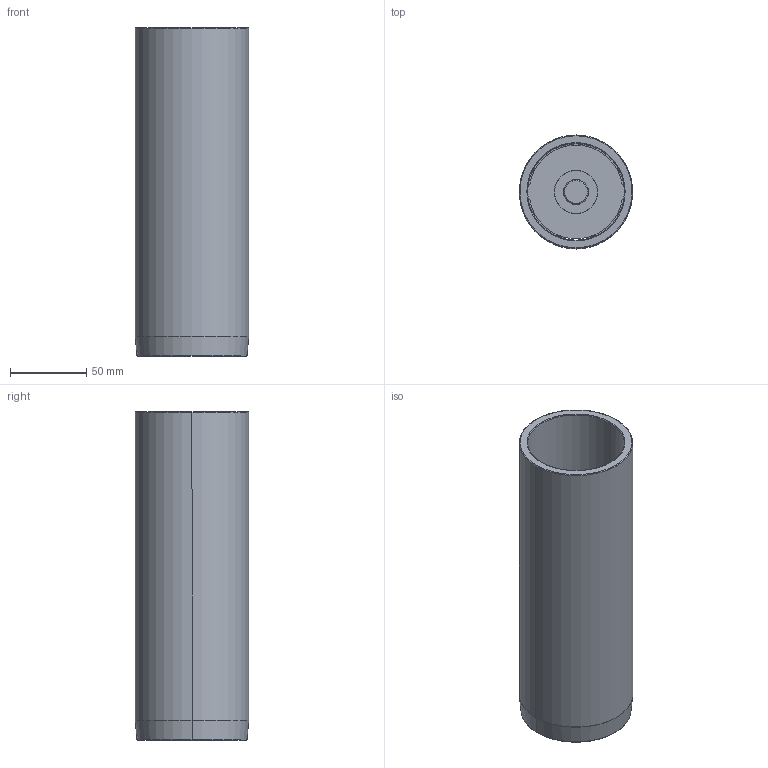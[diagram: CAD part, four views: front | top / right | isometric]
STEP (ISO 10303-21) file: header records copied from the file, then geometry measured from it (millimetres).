
FILE_DESCRIPTION((''),'2;1');
FILE_NAME('C12_063_215.stp','2009-01-29T09:35:48',(''),(''),'Mechanical Desktop 2009','Mechanical Desktop 2009',', , ');
FILE_SCHEMA(('CONFIG_CONTROL_DESIGN'));
Length unit declared in the file: millimetre
Products named in the file (2): Product; blmdl1
Assembly tree (1 placements, depth 2):
  Product
    blmdl1
Bounding box: 74.25 x 74.25 x 215 mm (x, y, z)
Volume: 264762.8 mm3; surface area: 109669.7 mm2
Topology: 5 solids, 5 shells, 79 faces, 200 edges, 134 vertices
Faces by surface type: cylinder 34, plane 29, torus 10, cone 6
Entity records: 2585 total; most frequent: DIRECTION 480, CARTESIAN_POINT 435, ORIENTED_EDGE 400, AXIS2_PLACEMENT_3D 203, EDGE_CURVE 200, VERTEX_POINT 134, CIRCLE 122, EDGE_LOOP 92
